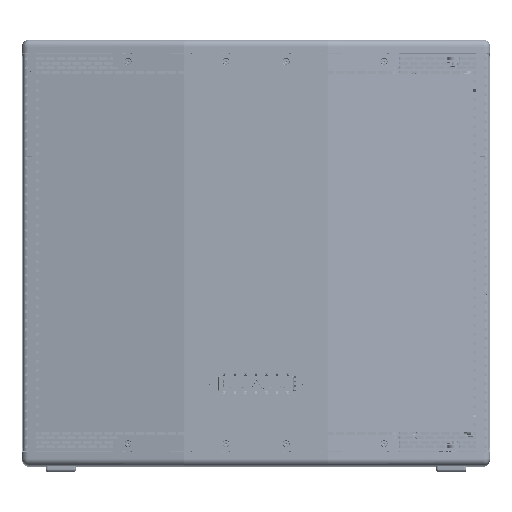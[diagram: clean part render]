
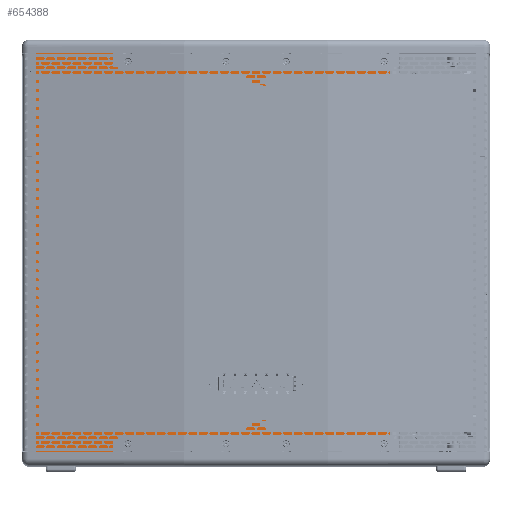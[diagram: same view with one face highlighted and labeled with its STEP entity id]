
A CAD part, top view. The second image highlights one B-rep face of the part: STEP entity #654388.
In plain terms, the highlighted planar face has unit normal (0, 0, 1).
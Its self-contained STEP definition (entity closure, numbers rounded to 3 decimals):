
#546 = VERTEX_POINT ( 'NONE', #148184 ) ;
#5990 = LINE ( 'NONE', #307911, #198181 ) ;
#8020 = ORIENTED_EDGE ( 'NONE', *, *, #448246, .F. ) ;
#24718 = VERTEX_POINT ( 'NONE', #93813 ) ;
#53289 = FACE_OUTER_BOUND ( 'NONE', #655660, .T. ) ;
#63609 = CARTESIAN_POINT ( 'NONE',  ( 2322.088, -185.418, 287.084 ) ) ;
#90338 = DIRECTION ( 'NONE',  ( 0., 0., 1. ) ) ;
#93813 = CARTESIAN_POINT ( 'NONE',  ( 1845.793, -185.418, 287.084 ) ) ;
#109188 = EDGE_CURVE ( 'NONE', #24718, #401611, #138965, .T. ) ;
#126349 = EDGE_CURVE ( 'NONE', #24718, #254821, #5990, .T. ) ;
#138965 = LINE ( 'NONE', #548106, #343171 ) ;
#148184 = CARTESIAN_POINT ( 'NONE',  ( 2322.088, 353.545, 287.084 ) ) ;
#162105 = DIRECTION ( 'NONE',  ( 1., 0., 0. ) ) ;
#198181 = VECTOR ( 'NONE', #512493, 1000. ) ;
#228170 = AXIS2_PLACEMENT_3D ( 'NONE', #572078, #310695, #458335 ) ;
#236601 = ORIENTED_EDGE ( 'NONE', *, *, #458864, .T. ) ;
#236695 = AXIS2_PLACEMENT_3D ( 'NONE', #325892, #429846, #268968 ) ;
#254821 = VERTEX_POINT ( 'NONE', #557791 ) ;
#262268 = VERTEX_POINT ( 'NONE', #478506 ) ;
#268968 = DIRECTION ( 'NONE',  ( 1., 0., 0. ) ) ;
#269362 = CARTESIAN_POINT ( 'NONE',  ( 2141.763, 353.545, 287.084 ) ) ;
#270735 = CIRCLE ( 'NONE', #228170, 232.5 ) ;
#277419 = DIRECTION ( 'NONE',  ( 0., -1., 0. ) ) ;
#289807 = CARTESIAN_POINT ( 'NONE',  ( 1855.898, 84.063, 287.084 ) ) ;
#292609 = AXIS2_PLACEMENT_3D ( 'NONE', #398899, #90338, #653836 ) ;
#293258 = DIRECTION ( 'NONE',  ( 1., 0., 0. ) ) ;
#307911 = CARTESIAN_POINT ( 'NONE',  ( 1845.793, -185.748, 287.084 ) ) ;
#310695 = DIRECTION ( 'NONE',  ( 0., 0., -1. ) ) ;
#325892 = CARTESIAN_POINT ( 'NONE',  ( 2088.398, 84.063, 287.084 ) ) ;
#332885 = CIRCLE ( 'NONE', #236695, 232.5 ) ;
#343171 = VECTOR ( 'NONE', #293258, 1000. ) ;
#353795 = EDGE_CURVE ( 'NONE', #546, #401611, #528948, .T. ) ;
#357353 = EDGE_CURVE ( 'NONE', #262268, #495330, #332885, .T. ) ;
#398899 = CARTESIAN_POINT ( 'NONE',  ( 2141.763, -185.748, 287.084 ) ) ;
#401611 = VERTEX_POINT ( 'NONE', #63609 ) ;
#429846 = DIRECTION ( 'NONE',  ( 0., 0., -1. ) ) ;
#440444 = ORIENTED_EDGE ( 'NONE', *, *, #357353, .T. ) ;
#446881 = EDGE_LOOP ( 'NONE', ( #440444, #236601 ) ) ;
#448246 = EDGE_CURVE ( 'NONE', #254821, #546, #621557, .T. ) ;
#458335 = DIRECTION ( 'NONE',  ( 1., 0., 0. ) ) ;
#458864 = EDGE_CURVE ( 'NONE', #495330, #262268, #270735, .T. ) ;
#478506 = CARTESIAN_POINT ( 'NONE',  ( 2320.898, 84.063, 287.084 ) ) ;
#495330 = VERTEX_POINT ( 'NONE', #289807 ) ;
#512493 = DIRECTION ( 'NONE',  ( 0., 1., 0. ) ) ;
#522938 = VECTOR ( 'NONE', #277419, 1000. ) ;
#528948 = LINE ( 'NONE', #629571, #522938 ) ;
#548106 = CARTESIAN_POINT ( 'NONE',  ( 2141.763, -185.418, 287.084 ) ) ;
#557791 = CARTESIAN_POINT ( 'NONE',  ( 1845.793, 353.545, 287.084 ) ) ;
#572078 = CARTESIAN_POINT ( 'NONE',  ( 2088.398, 84.063, 287.084 ) ) ;
#588420 = ORIENTED_EDGE ( 'NONE', *, *, #126349, .F. ) ;
#603433 = PLANE ( 'NONE',  #292609 ) ;
#621225 = ORIENTED_EDGE ( 'NONE', *, *, #109188, .T. ) ;
#621557 = LINE ( 'NONE', #269362, #646577 ) ;
#629571 = CARTESIAN_POINT ( 'NONE',  ( 2322.088, -50.493, 287.084 ) ) ;
#631753 = ORIENTED_EDGE ( 'NONE', *, *, #353795, .F. ) ;
#640656 = FACE_BOUND ( 'NONE', #446881, .T. ) ;
#646577 = VECTOR ( 'NONE', #162105, 1000. ) ;
#653836 = DIRECTION ( 'NONE',  ( 1., 0., 0. ) ) ;
#654388 = ADVANCED_FACE ( 'NONE', ( #640656, #53289 ), #603433, .T. ) ;
#655660 = EDGE_LOOP ( 'NONE', ( #588420, #621225, #631753, #8020 ) ) ;
